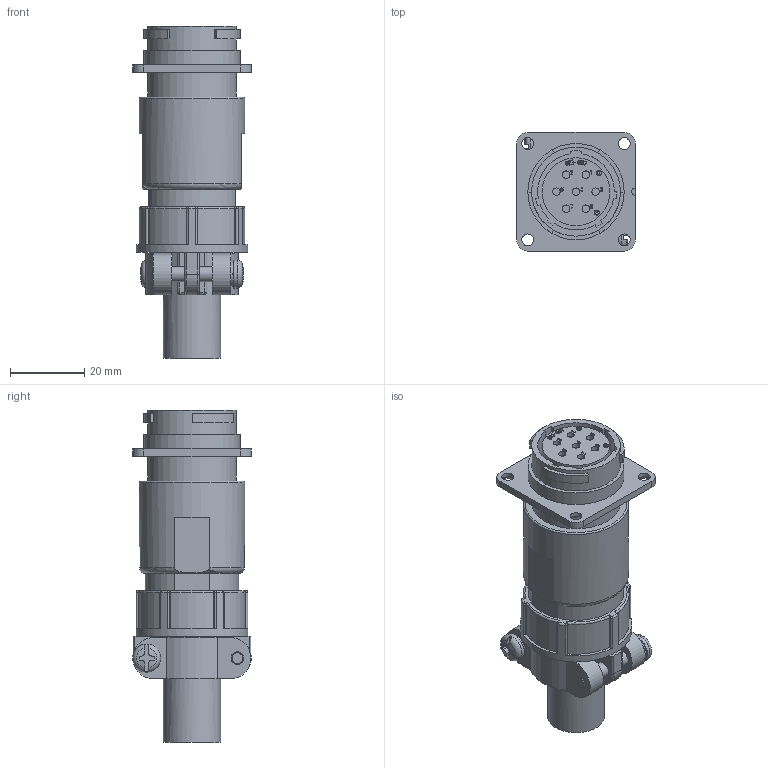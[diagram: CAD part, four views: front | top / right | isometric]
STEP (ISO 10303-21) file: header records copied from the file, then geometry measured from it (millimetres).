
FILE_DESCRIPTION (( 'STEP AP203' ), '1' );
FILE_NAME ('WEBWR2107F-2-D(R1).STEP', '2021-08-04T01:24:01', ( '' ), ( '' ), 'SwSTEP 2.0', 'SolidWorks 2018', '' );
FILE_SCHEMA (( 'CONFIG_CONTROL_DESIGN' ));
Length unit declared in the file: millimetre
Products named in the file (1): WEBWR2107F-2-D(R1)
Bounding box: 32 x 32.1 x 89.58 mm (x, y, z)
Volume: 30971.8 mm3; surface area: 19671.5 mm2
Topology: 1 solids, 1 shells, 804 faces, 2113 edges, 1366 vertices
Faces by surface type: plane 368, bspline 210, cylinder 162, torus 23, cone 21, sphere 20
Full cylindrical faces by diameter (mm): 1.2 x3, 1.4 x3, 1.7 x7, 2 x7, 2.4 x7, 2.8 x2, 3.2 x4, 3.4 x2, 4.1 x2, 4.3 x4, 7.6 x2, 11 x2, 15.46 x1, 15.8 x1, 16.22 x1, 18.1 x1, 18.3 x1, 20.1 x1, 20.45 x1, 23.96 x1, 24 x1, 26 x2, 28.4 x1, 30.2 x1
Entity records: 32253 total; most frequent: CARTESIAN_POINT 14169, ORIENTED_EDGE 3952, DIRECTION 3094, EDGE_CURVE 1976, VERTEX_POINT 1330, VECTOR 1104, LINE 1104, AXIS2_PLACEMENT_3D 995
